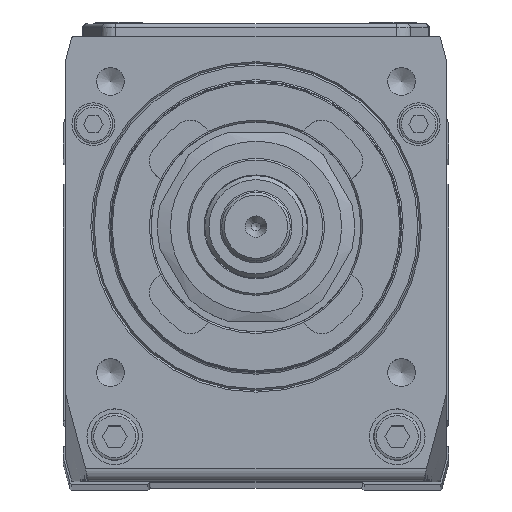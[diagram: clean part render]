
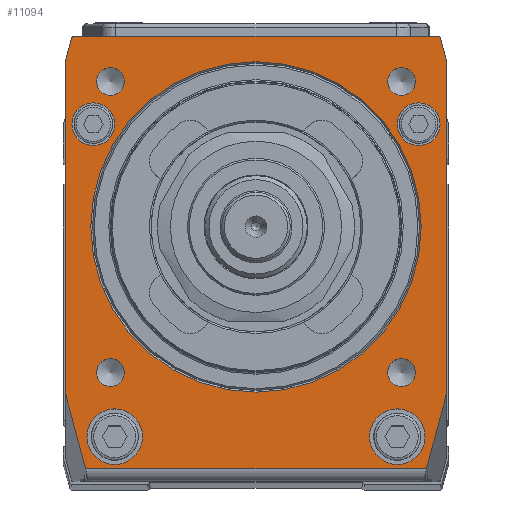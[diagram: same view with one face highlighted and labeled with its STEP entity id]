
A CAD part, top view. The second image highlights one B-rep face of the part: STEP entity #11094.
In plain terms, the highlighted planar face has unit normal (0, 0, 1) as drawn and (-1, 0, 0) by its records, which use the part's own axes.
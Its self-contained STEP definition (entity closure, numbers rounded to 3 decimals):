
#894=CIRCLE('',#16259,0.3);
#895=CIRCLE('',#16260,0.3);
#897=CIRCLE('',#16264,2.5);
#898=CIRCLE('',#16265,2.5);
#899=CIRCLE('',#16266,3.25);
#900=CIRCLE('',#16267,3.25);
#901=CIRCLE('',#16268,1.621);
#902=CIRCLE('',#16269,1.621);
#903=CIRCLE('',#16270,1.621);
#904=CIRCLE('',#16271,1.621);
#905=CIRCLE('',#16272,19.3);
#3517=ORIENTED_EDGE('',*,*,#5374,.T.);
#3518=ORIENTED_EDGE('',*,*,#5375,.T.);
#3519=ORIENTED_EDGE('',*,*,#5376,.T.);
#3520=ORIENTED_EDGE('',*,*,#5377,.T.);
#3521=ORIENTED_EDGE('',*,*,#5378,.T.);
#3522=ORIENTED_EDGE('',*,*,#5379,.T.);
#3523=ORIENTED_EDGE('',*,*,#5380,.T.);
#3524=ORIENTED_EDGE('',*,*,#5381,.T.);
#3525=ORIENTED_EDGE('',*,*,#5382,.T.);
#3526=ORIENTED_EDGE('',*,*,#5383,.F.);
#3527=ORIENTED_EDGE('',*,*,#5356,.F.);
#3528=ORIENTED_EDGE('',*,*,#5286,.F.);
#3529=ORIENTED_EDGE('',*,*,#5369,.F.);
#3530=ORIENTED_EDGE('',*,*,#5368,.F.);
#3531=ORIENTED_EDGE('',*,*,#5367,.F.);
#3532=ORIENTED_EDGE('',*,*,#5366,.F.);
#3533=ORIENTED_EDGE('',*,*,#5365,.F.);
#3534=ORIENTED_EDGE('',*,*,#5373,.F.);
#3535=ORIENTED_EDGE('',*,*,#5360,.F.);
#5286=EDGE_CURVE('',#6466,#6467,#7436,.T.);
#5356=EDGE_CURVE('',#6467,#6519,#7459,.T.);
#5360=EDGE_CURVE('',#6522,#6523,#7461,.T.);
#5365=EDGE_CURVE('',#6526,#6527,#7464,.T.);
#5366=EDGE_CURVE('',#6527,#6528,#894,.T.);
#5367=EDGE_CURVE('',#6528,#6529,#7465,.T.);
#5368=EDGE_CURVE('',#6529,#6530,#895,.T.);
#5369=EDGE_CURVE('',#6530,#6466,#7466,.T.);
#5373=EDGE_CURVE('',#6523,#6526,#7469,.T.);
#5374=EDGE_CURVE('',#6533,#6533,#897,.T.);
#5375=EDGE_CURVE('',#6534,#6534,#898,.T.);
#5376=EDGE_CURVE('',#6535,#6535,#899,.T.);
#5377=EDGE_CURVE('',#6536,#6536,#900,.T.);
#5378=EDGE_CURVE('',#6537,#6537,#901,.T.);
#5379=EDGE_CURVE('',#6538,#6538,#902,.T.);
#5380=EDGE_CURVE('',#6539,#6539,#903,.T.);
#5381=EDGE_CURVE('',#6540,#6540,#904,.T.);
#5382=EDGE_CURVE('',#6541,#6541,#905,.T.);
#5383=EDGE_CURVE('',#6519,#6522,#7470,.T.);
#6466=VERTEX_POINT('',#23033);
#6467=VERTEX_POINT('',#23035);
#6519=VERTEX_POINT('',#23262);
#6522=VERTEX_POINT('',#23278);
#6523=VERTEX_POINT('',#23280);
#6526=VERTEX_POINT('',#23319);
#6527=VERTEX_POINT('',#23321);
#6528=VERTEX_POINT('',#23323);
#6529=VERTEX_POINT('',#23325);
#6530=VERTEX_POINT('',#23327);
#6533=VERTEX_POINT('',#23338);
#6534=VERTEX_POINT('',#23340);
#6535=VERTEX_POINT('',#23342);
#6536=VERTEX_POINT('',#23344);
#6537=VERTEX_POINT('',#23346);
#6538=VERTEX_POINT('',#23348);
#6539=VERTEX_POINT('',#23350);
#6540=VERTEX_POINT('',#23352);
#6541=VERTEX_POINT('',#23354);
#7436=LINE('',#23034,#8342);
#7459=LINE('',#23261,#8365);
#7461=LINE('',#23279,#8367);
#7464=LINE('',#23320,#8370);
#7465=LINE('',#23324,#8371);
#7466=LINE('',#23328,#8372);
#7469=LINE('',#23335,#8375);
#7470=LINE('',#23355,#8376);
#8342=VECTOR('',#19005,1000.);
#8365=VECTOR('',#19108,1000.);
#8367=VECTOR('',#19110,1000.);
#8370=VECTOR('',#19117,1000.);
#8371=VECTOR('',#19120,1000.);
#8372=VECTOR('',#19123,1000.);
#8375=VECTOR('',#19130,1000.);
#8376=VECTOR('',#19151,1000.);
#9169=EDGE_LOOP('',(#3517));
#9170=EDGE_LOOP('',(#3518));
#9171=EDGE_LOOP('',(#3519));
#9172=EDGE_LOOP('',(#3520));
#9173=EDGE_LOOP('',(#3521));
#9174=EDGE_LOOP('',(#3522));
#9175=EDGE_LOOP('',(#3523));
#9176=EDGE_LOOP('',(#3524));
#9177=EDGE_LOOP('',(#3525));
#9178=EDGE_LOOP('',(#3526,#3527,#3528,#3529,#3530,#3531,#3532,#3533,#3534,
#3535));
#10047=FACE_BOUND('',#9169,.T.);
#10048=FACE_BOUND('',#9170,.T.);
#10049=FACE_BOUND('',#9171,.T.);
#10050=FACE_BOUND('',#9172,.T.);
#10051=FACE_BOUND('',#9173,.T.);
#10052=FACE_BOUND('',#9174,.T.);
#10053=FACE_BOUND('',#9175,.T.);
#10054=FACE_BOUND('',#9176,.T.);
#10055=FACE_BOUND('',#9177,.T.);
#10056=FACE_BOUND('',#9178,.T.);
#10511=PLANE('',#16263);
#11094=ADVANCED_FACE('',(#10047,#10048,#10049,#10050,#10051,#10052,#10053,
#10054,#10055,#10056),#10511,.F.);
#16259=AXIS2_PLACEMENT_3D('',#23322,#19118,#19119);
#16260=AXIS2_PLACEMENT_3D('',#23326,#19121,#19122);
#16263=AXIS2_PLACEMENT_3D('',#23336,#19131,#19132);
#16264=AXIS2_PLACEMENT_3D('',#23337,#19133,#19134);
#16265=AXIS2_PLACEMENT_3D('',#23339,#19135,#19136);
#16266=AXIS2_PLACEMENT_3D('',#23341,#19137,#19138);
#16267=AXIS2_PLACEMENT_3D('',#23343,#19139,#19140);
#16268=AXIS2_PLACEMENT_3D('',#23345,#19141,#19142);
#16269=AXIS2_PLACEMENT_3D('',#23347,#19143,#19144);
#16270=AXIS2_PLACEMENT_3D('',#23349,#19145,#19146);
#16271=AXIS2_PLACEMENT_3D('',#23351,#19147,#19148);
#16272=AXIS2_PLACEMENT_3D('',#23353,#19149,#19150);
#19005=DIRECTION('',(0.,-1.,0.));
#19108=DIRECTION('',(0.,-0.966,-0.259));
#19110=DIRECTION('',(0.,0.966,-0.259));
#19117=DIRECTION('',(0.,0.966,0.259));
#19118=DIRECTION('',(1.,0.,0.));
#19119=DIRECTION('',(0.,0.,-1.));
#19120=DIRECTION('',(0.,0.,1.));
#19121=DIRECTION('',(1.,0.,0.));
#19122=DIRECTION('',(0.,0.,-1.));
#19123=DIRECTION('',(0.,-0.966,0.259));
#19130=DIRECTION('',(0.,1.,0.));
#19131=DIRECTION('',(1.,0.,0.));
#19132=DIRECTION('',(0.,0.,-1.));
#19133=DIRECTION('',(1.,0.,0.));
#19134=DIRECTION('',(0.,0.,-1.));
#19135=DIRECTION('',(1.,0.,0.));
#19136=DIRECTION('',(0.,0.,-1.));
#19137=DIRECTION('',(1.,0.,0.));
#19138=DIRECTION('',(0.,0.,-1.));
#19139=DIRECTION('',(1.,0.,0.));
#19140=DIRECTION('',(0.,0.,-1.));
#19141=DIRECTION('',(1.,0.,0.));
#19142=DIRECTION('',(0.,0.,-1.));
#19143=DIRECTION('',(1.,0.,0.));
#19144=DIRECTION('',(0.,0.,-1.));
#19145=DIRECTION('',(1.,0.,0.));
#19146=DIRECTION('',(0.,0.,-1.));
#19147=DIRECTION('',(1.,0.,0.));
#19148=DIRECTION('',(0.,0.,-1.));
#19149=DIRECTION('',(1.,0.,0.));
#19150=DIRECTION('',(0.,0.,-1.));
#19151=DIRECTION('',(0.,0.,-1.));
#23033=CARTESIAN_POINT('',(0.,19.45,22.25));
#23034=CARTESIAN_POINT('',(0.,19.45,22.25));
#23035=CARTESIAN_POINT('',(0.,-19.5,22.25));
#23261=CARTESIAN_POINT('',(0.,-19.5,22.25));
#23262=CARTESIAN_POINT('',(0.,-28.25,19.905));
#23278=CARTESIAN_POINT('',(0.,-28.25,-19.905));
#23279=CARTESIAN_POINT('',(0.,-29.528,-19.563));
#23280=CARTESIAN_POINT('',(0.,-19.5,-22.25));
#23319=CARTESIAN_POINT('',(0.,19.45,-22.25));
#23320=CARTESIAN_POINT('',(0.,19.45,-22.25));
#23321=CARTESIAN_POINT('',(0.,22.028,-21.559));
#23322=CARTESIAN_POINT('',(0.,21.95,-21.27));
#23323=CARTESIAN_POINT('',(0.,22.25,-21.27));
#23324=CARTESIAN_POINT('',(0.,22.25,-21.27));
#23325=CARTESIAN_POINT('',(0.,22.25,21.27));
#23326=CARTESIAN_POINT('',(0.,21.95,21.27));
#23327=CARTESIAN_POINT('',(0.,22.028,21.559));
#23328=CARTESIAN_POINT('',(0.,22.028,21.559));
#23335=CARTESIAN_POINT('',(0.,-19.5,-22.25));
#23336=CARTESIAN_POINT('',(0.,-29.45,19.273));
#23337=CARTESIAN_POINT('',(0.,12.,-19.));
#23338=CARTESIAN_POINT('',(0.,12.,-21.5));
#23339=CARTESIAN_POINT('',(0.,12.,19.));
#23340=CARTESIAN_POINT('',(0.,12.,16.5));
#23341=CARTESIAN_POINT('',(0.,-24.5,-16.5));
#23342=CARTESIAN_POINT('',(0.,-24.5,-19.75));
#23343=CARTESIAN_POINT('',(0.,-24.5,16.5));
#23344=CARTESIAN_POINT('',(0.,-24.5,13.25));
#23345=CARTESIAN_POINT('',(0.,-17.,-17.));
#23346=CARTESIAN_POINT('',(0.,-17.,-18.621));
#23347=CARTESIAN_POINT('',(0.,17.,-17.));
#23348=CARTESIAN_POINT('',(0.,17.,-18.621));
#23349=CARTESIAN_POINT('',(0.,17.,17.));
#23350=CARTESIAN_POINT('',(0.,17.,15.379));
#23351=CARTESIAN_POINT('',(0.,-17.,17.));
#23352=CARTESIAN_POINT('',(0.,-17.,15.379));
#23353=CARTESIAN_POINT('',(0.,0.,0.));
#23354=CARTESIAN_POINT('',(0.,0.,-19.3));
#23355=CARTESIAN_POINT('',(0.,-28.25,22.25));
